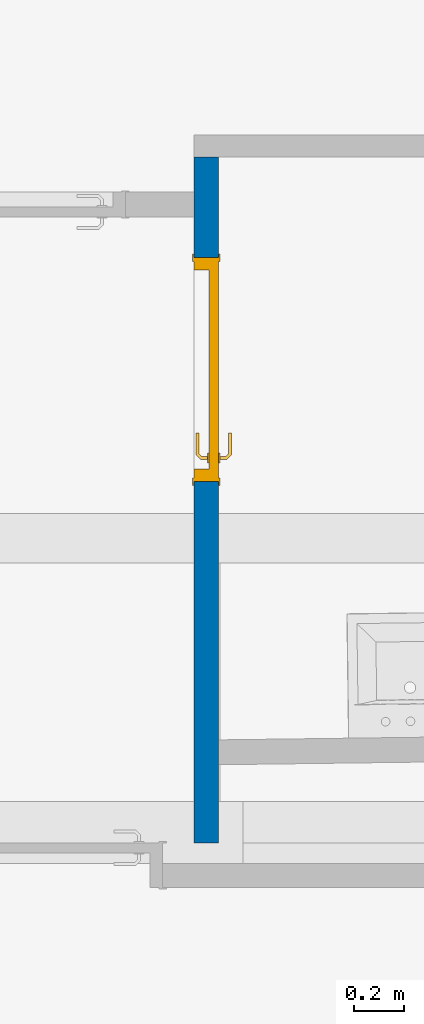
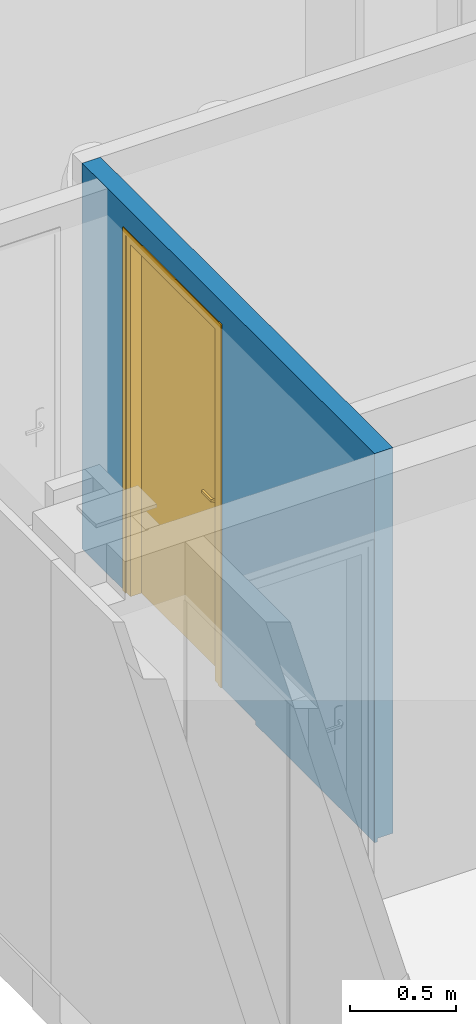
# One storey, part 11 of 32: 1 door, 1 wall, 1 opening.
"""IFC4 building model written with IfcOpenShell, lengths in metres."""

from ifc_helpers import new_model, entity, si_unit, converted_unit, derived_unit, direction, frame, origin, place, context, subcontext, project, spatial, indexed_curve, outline, extrude, polygons, source, transform, mapped, material, material_list, layer, layer_set, constituent, constituent_set, type_object, type_shapes, element, fill, save


model = new_model("IFC4")

# Units and contexts
model_context = context("Model", 3, precision=1e-05, world=origin(), true_north=direction((6.12303176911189e-17, 1.0)))
body_context = subcontext(model_context, "Body", "Model", "MODEL_VIEW")
ifc_project = project(units=[si_unit("LENGTHUNIT", "METRE"), si_unit("AREAUNIT", "SQUARE_METRE"), si_unit("VOLUMEUNIT", "CUBIC_METRE"), converted_unit("PLANEANGLEUNIT", "DEGREE", entity("IfcRatioMeasure", 0.0174532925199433), si_unit("PLANEANGLEUNIT", "RADIAN"), dimensions=[0, 0, 0, 0, 0, 0, 0]), si_unit("MASSUNIT", "GRAM", prefix="KILO"), derived_unit("MASSDENSITYUNIT", [(si_unit("MASSUNIT", "GRAM", prefix="KILO"), 1), (si_unit("LENGTHUNIT", "METRE"), -3)]), derived_unit("MOMENTOFINERTIAUNIT", [(si_unit("LENGTHUNIT", "METRE"), 4)]), si_unit("TIMEUNIT", "SECOND"), si_unit("FREQUENCYUNIT", "HERTZ"), si_unit("THERMODYNAMICTEMPERATUREUNIT", "DEGREE_CELSIUS"), derived_unit("THERMALTRANSMITTANCEUNIT", [(si_unit("MASSUNIT", "GRAM", prefix="KILO"), 1), (si_unit("THERMODYNAMICTEMPERATUREUNIT", "KELVIN"), -1), (si_unit("TIMEUNIT", "SECOND"), -3)]), derived_unit("VOLUMETRICFLOWRATEUNIT", [(si_unit("LENGTHUNIT", "METRE"), 3), (si_unit("TIMEUNIT", "SECOND"), -1)]), si_unit("ELECTRICCURRENTUNIT", "AMPERE"), si_unit("ELECTRICVOLTAGEUNIT", "VOLT"), si_unit("POWERUNIT", "WATT"), si_unit("FORCEUNIT", "NEWTON", prefix="KILO"), si_unit("ILLUMINANCEUNIT", "LUX"), si_unit("LUMINOUSFLUXUNIT", "LUMEN"), si_unit("LUMINOUSINTENSITYUNIT", "CANDELA"), derived_unit("USERDEFINED", [(si_unit("MASSUNIT", "GRAM", prefix="KILO"), -1), (si_unit("LENGTHUNIT", "METRE"), -2), (si_unit("TIMEUNIT", "SECOND"), 3), (si_unit("LUMINOUSFLUXUNIT", "LUMEN"), 1)]), derived_unit("LINEARVELOCITYUNIT", [(si_unit("LENGTHUNIT", "METRE"), 1), (si_unit("TIMEUNIT", "SECOND"), -1)]), si_unit("PRESSUREUNIT", "PASCAL"), derived_unit("USERDEFINED", [(si_unit("LENGTHUNIT", "METRE"), -2), (si_unit("MASSUNIT", "GRAM", prefix="KILO"), 1), (si_unit("TIMEUNIT", "SECOND"), -2)]), derived_unit("LINEARFORCEUNIT", [(si_unit("MASSUNIT", "GRAM", prefix="KILO"), 1), (si_unit("LENGTHUNIT", "METRE"), 1), (si_unit("TIMEUNIT", "SECOND"), -2), (si_unit("LENGTHUNIT", "METRE"), -1)]), derived_unit("PLANARFORCEUNIT", [(si_unit("MASSUNIT", "GRAM", prefix="KILO"), 1), (si_unit("LENGTHUNIT", "METRE"), 1), (si_unit("TIMEUNIT", "SECOND"), -2), (si_unit("LENGTHUNIT", "METRE"), -2)])], contexts=[model_context])

# Site, building, storey
site_placement = place(None, origin())
site = spatial("IfcSite", under=ifc_project, at=site_placement, Name="Default", CompositionType="ELEMENT")
building_placement = place(site_placement, origin())
building = spatial("IfcBuilding", under=site, at=building_placement, Name="HOTEL CONSULAIRE BOULOGNE SUR MER", CompositionType="ELEMENT")
storey_placement = place(building_placement, frame((0.0, 0.0, -2.70343668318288)))
storey = spatial("IfcBuildingStorey", under=building, at=storey_placement, Name="SS1", CompositionType="ELEMENT", Elevation=-2.70343668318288)

# Wall, opening, door
ifc_material_1 = material(Name="Mur par défaut", Category="Divers")
ifc_layer = layer(ifc_material_1, 0.1, Name="Mur par défaut", Category="Divers")
ifc_layer_set = layer_set([ifc_layer], Name="Mur de base:Générique - Int. 100 mm")
wall_type = type_object("IfcWallType", Name="Mur de base:Générique - Int. 100 mm", PredefinedType="NOTDEFINED", material=ifc_layer_set)
wall_placement = place(storey_placement, frame((-3.79169934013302, -19.9149143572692, 0.195), z_axis=(0.0, 0.0, 1.0), x_axis=(0.0, 1.0, 0.0)))
wall = element("IfcWall", 1, at=wall_placement, inside=storey, type_object=wall_type, material=ifc_layer_set, Name="Mur de base:Générique - Int. 100 mm", ObjectType="Mur de base:Générique - Int. 100 mm", PredefinedType="NOTDEFINED", context=body_context, shape_type="Tessellation", body=[
    polygons([(0.0, 0.0335278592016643, 0.0199999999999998), (1.12437589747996, 0.0335278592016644, 0.0199999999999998), (1.12437589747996, 0.0500000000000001, 0.0199999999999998), (1.4517756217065, 0.0500000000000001, 0.0199999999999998), (1.4517756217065, -0.05, 0.0199999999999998), (0.413938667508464, -0.0499999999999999, 0.0199999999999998), (0.313930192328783, -0.0499999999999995, 0.0199999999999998), (0.0, -0.05, 0.0199999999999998), (2.756, -0.0500000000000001, 2.23843668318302), (0.413938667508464, -0.0499999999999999, 2.23843668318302), (0.313930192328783, -0.0500000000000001, 2.23843668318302), (0.0, -0.05, 2.23843668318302), (1.4517756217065, -0.05, 2.095), (2.3517756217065, -0.0500000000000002, 2.095), (2.3517756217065, -0.0500000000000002, 0.0199999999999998), (2.756, -0.0500000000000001, 0.0199999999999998), (0.0, 0.05, 2.23843668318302), (2.5157756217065, 0.05, 2.23843668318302), (2.6157756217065, 0.0500000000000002, 2.23843668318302), (2.756, 0.0499999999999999, 2.23843668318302), (2.756, 0.0499999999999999, 0.0199999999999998), (2.3517756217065, 0.0499999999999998, 0.0199999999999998), (2.3517756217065, 0.0499999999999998, 2.095), (1.4517756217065, 0.0500000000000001, 2.095), (1.12437589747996, 0.0500000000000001, 0.0), (0.0, 0.05, 0.0), (1.12437589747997, 0.0335278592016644, 0.0), (0.0, 0.0335278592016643, 0.0)], [[[2, 3, 4, 5, 6, 7, 8, 1]], [[27, 28, 26, 25]], [[23, 14, 13, 24]], [[22, 21, 16, 15]], [[11, 12, 8, 7, 6, 5, 13, 14, 15, 16, 9, 10]], [[1, 28, 27, 2]], [[21, 22, 23, 24, 4, 3, 25, 26, 17, 18, 19, 20]], [[10, 9, 20, 19, 18, 17, 12, 11]], [[16, 21, 20, 9]], [[24, 13, 5, 4]], [[3, 2, 27, 25]], [[1, 8, 12, 17, 26, 28]], [[22, 15, 14, 23]]], closed=True),
])
opening_placement = place(wall_placement, frame((2.3517756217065, 0.0499999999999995, 0.0199999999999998)))
opening = element("IfcOpeningElement", 2, at=opening_placement, cuts=wall, Name="Int. Simple:PP (0.83m x 2.04m):1", ObjectType="Opening", PredefinedType="OPENING", context=body_context, shape_type="SweptSolid", body=[
    extrude(outline(indexed_curve([(0.0, 1.08286712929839e-15), (2.075, 1.08286712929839e-15), (2.075, 0.9), (0.0, 0.9), (0.0, 1.08286712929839e-15)], self_intersect=False)), frame((0.0, 0.0, 0.0), z_axis=(0.0, -1.0, 0.0), x_axis=(0.0, 0.0, 1.0)), (0.0, 0.0, 1.0), 0.1),
])
ifc_material_2 = material(Name="Finition Peinture - Blanc satiné", Category="Peinture")
ifc_constituent_1 = constituent(ifc_material_2, Name="Finition Peinture - Blanc satiné", Category="Matériaux")
ifc_material_3 = material(Name="Bois - Panneau de porte", Category="Bois")
ifc_constituent_2 = constituent(ifc_material_3, Name="Bois - Panneau de porte", Category="Matériaux")
ifc_material_4 = material(Name="Bois - Cadre de porte", Category="Bois")
ifc_constituent_3 = constituent(ifc_material_4, Name="Bois - Cadre de porte", Category="Matériaux")
ifc_constituent_set = constituent_set(constituents=[ifc_constituent_1, ifc_constituent_2, ifc_constituent_3], Name="MaterialConstituentSet")
ifc_material_list = material_list([ifc_material_3, ifc_material_4, ifc_material_2, ifc_material_4])
door_type = type_object("IfcDoorType", Name="Int. Simple:PP (0.83m x 2.04m)", OperationType="NOTDEFINED", PredefinedType="DOOR", material=ifc_material_list)
shared_shape = source(origin(), body_context, "Body", "Tessellation", [
    polygons([(0.0750000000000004, -0.00500000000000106, 0.870000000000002), (0.0846472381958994, -0.00500000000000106, 0.866003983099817), (0.0950000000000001, -0.00500000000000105, 0.86464101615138), (0.105352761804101, -0.00500000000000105, 0.866003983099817), (0.115, -0.00500000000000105, 0.870000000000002), (0.114999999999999, -0.00500000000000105, 1.08), (0.1053527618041, -0.00500000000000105, 1.08399601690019), (0.094999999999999, -0.00500000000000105, 1.08535898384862), (0.0846472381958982, -0.00500000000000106, 1.08399601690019), (0.0749999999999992, -0.00500000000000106, 1.08), (0.0749999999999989, -1.06594733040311e-15, 0.870000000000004), (0.0749999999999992, -1.06594733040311e-15, 1.08), (0.0846472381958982, -1.06594733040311e-15, 1.08399601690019), (0.094999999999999, -1.05748743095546e-15, 1.08535898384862), (0.1053527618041, -1.05748743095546e-15, 1.08399601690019), (0.114999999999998, -1.04902753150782e-15, 1.08), (0.115, -1.04902753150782e-15, 0.870000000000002), (0.105352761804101, -1.05748743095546e-15, 0.866003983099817), (0.0950000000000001, -1.05748743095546e-15, 0.86464101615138), (0.0846472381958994, -1.06594733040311e-15, 0.866003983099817)], [[[4, 5, 6, 7, 8, 9, 10, 1, 2, 3]], [[15, 16, 17, 18, 19, 20, 11, 12, 13, 14]], [[11, 20, 2, 1]], [[2, 20, 19, 3]], [[19, 18, 4, 3]], [[18, 17, 5, 4]], [[6, 5, 17, 16]], [[16, 15, 7, 6]], [[7, 15, 14, 8]], [[14, 13, 9, 8]], [[13, 12, 10, 9]], [[1, 10, 12, 11]]], closed=True),
    polygons([(0.114999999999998, 0.0399999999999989, 1.08), (0.105352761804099, 0.0399999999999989, 1.08399601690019), (0.0949999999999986, 0.0399999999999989, 1.08535898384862), (0.084647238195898, 0.0399999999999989, 1.08399601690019), (0.0749999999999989, 0.0399999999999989, 1.08), (0.0750000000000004, 0.0399999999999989, 0.870000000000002), (0.0846472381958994, 0.0399999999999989, 0.866003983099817), (0.0950000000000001, 0.0399999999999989, 0.86464101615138), (0.105352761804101, 0.0399999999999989, 0.866003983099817), (0.115, 0.0399999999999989, 0.870000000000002), (0.114999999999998, 0.0449999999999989, 1.08), (0.115, 0.0449999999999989, 0.870000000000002), (0.105352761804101, 0.0449999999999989, 0.866003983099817), (0.0950000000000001, 0.0449999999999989, 0.86464101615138), (0.0846472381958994, 0.0449999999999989, 0.866003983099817), (0.0749999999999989, 0.0449999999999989, 0.870000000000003), (0.0749999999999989, 0.0449999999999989, 1.08), (0.084647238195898, 0.0449999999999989, 1.08399601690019), (0.0949999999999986, 0.0449999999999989, 1.08535898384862), (0.105352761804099, 0.0449999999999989, 1.08399601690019)], [[[9, 10, 1, 2, 3, 4, 5, 6, 7, 8]], [[20, 11, 12, 13, 14, 15, 16, 17, 18, 19]], [[11, 20, 2, 1]], [[2, 20, 19, 3]], [[19, 18, 4, 3]], [[18, 17, 5, 4]], [[6, 5, 17, 16]], [[16, 15, 7, 6]], [[7, 15, 14, 8]], [[14, 13, 9, 8]], [[13, 12, 10, 9]], [[1, 10, 12, 11]]], closed=True),
    polygons([(0.0889999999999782, -0.00500000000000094, 1.007), (0.0929747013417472, -0.00500000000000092, 1.00778044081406), (0.0970252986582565, -0.0050000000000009, 1.00778044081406), (0.101000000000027, -0.00500000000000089, 1.00699999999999), (0.101000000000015, -0.00500000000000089, 0.993000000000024), (0.0970252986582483, -0.0050000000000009, 0.992219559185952), (0.0929747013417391, -0.00500000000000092, 0.99221955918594), (0.0889999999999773, -0.00500000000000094, 0.992999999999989), (0.0889999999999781, -0.0326509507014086, 1.007), (0.092974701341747, -0.0310045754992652, 1.00778044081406), (0.0970252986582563, -0.0293267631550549, 1.00778044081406), (0.101000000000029, -0.0276803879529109, 1.007), (0.101000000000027, -0.0276803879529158, 0.993000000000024), (0.0970252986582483, -0.0293267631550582, 0.992219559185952), (0.0929747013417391, -0.0310045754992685, 0.99221955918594), (0.0889999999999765, -0.0326509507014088, 0.992999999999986), (0.107377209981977, -0.0510281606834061, 1.007), (0.10902358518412, -0.0470534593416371, 1.00778044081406), (0.110701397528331, -0.0430028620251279, 1.00778044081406), (0.112347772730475, -0.0390281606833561, 1.007), (0.112347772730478, -0.0390281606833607, 0.993000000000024), (0.110701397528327, -0.0430028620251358, 0.992219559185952), (0.109023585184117, -0.0470534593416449, 0.99221955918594), (0.107377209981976, -0.0510281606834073, 0.992999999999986), (0.195018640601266, -0.0510281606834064, 1.00699999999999), (0.195018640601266, -0.051028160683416, 0.992999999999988), (0.195018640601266, -0.0470534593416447, 0.99221955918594), (0.195018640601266, -0.0430028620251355, 0.992219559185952), (0.195018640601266, -0.0390281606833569, 0.993000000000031), (0.195018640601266, -0.0390281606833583, 1.007), (0.195018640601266, -0.0430028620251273, 1.00778044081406), (0.195018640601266, -0.0470534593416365, 1.00778044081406), (0.147307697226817, -0.0510281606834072, 1.007), (0.152860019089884, -0.045028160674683, 1.0078786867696), (0.15368320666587, -0.039028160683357, 1.007), (0.147307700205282, -0.0510281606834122, 0.992999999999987), (0.152860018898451, -0.0450281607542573, 0.992121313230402), (0.153683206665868, -0.0390281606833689, 0.993000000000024)], [[[2, 3, 4, 5, 6, 7, 8, 1]], [[21, 20, 35, 30, 29, 38]], [[9, 10, 2, 1]], [[10, 18, 19, 11, 3, 2]], [[11, 12, 4, 3]], [[5, 4, 12, 13]], [[26, 27, 28, 29, 30, 31, 32, 25]], [[13, 14, 6, 5]], [[14, 22, 23, 15, 7, 6]], [[15, 16, 8, 7]], [[1, 8, 16, 9]], [[17, 18, 10, 9]], [[19, 20, 12, 11]], [[13, 12, 20, 21]], [[21, 22, 14, 13]], [[23, 24, 16, 15]], [[9, 16, 24, 17]], [[33, 32, 34]], [[25, 32, 33]], [[18, 17, 33]], [[34, 35, 19]], [[20, 19, 35]], [[35, 31, 30]], [[32, 31, 34]], [[31, 35, 34]], [[18, 33, 34]], [[18, 34, 19]], [[38, 28, 37]], [[36, 37, 27]], [[21, 38, 22]], [[38, 29, 28]], [[26, 36, 27]], [[24, 23, 36]], [[36, 23, 37]], [[23, 22, 37]], [[22, 38, 37]], [[27, 37, 28]], [[17, 24, 36, 26, 25, 33]]], closed=True),
    polygons([(0.10100000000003, 0.0449999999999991, 0.993000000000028), (0.101000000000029, 0.0449999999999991, 1.007), (0.0970252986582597, 0.0449999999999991, 1.00778044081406), (0.0929747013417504, 0.0449999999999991, 1.00778044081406), (0.0889999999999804, 0.044999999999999, 1.007), (0.0889999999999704, 0.044999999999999, 0.992999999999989), (0.0929747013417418, 0.0449999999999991, 0.99221955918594), (0.0970252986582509, 0.0449999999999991, 0.992219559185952), (0.10100000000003, 0.067485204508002, 0.993000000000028), (0.10100000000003, 0.0674852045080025, 1.007), (0.0970252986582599, 0.0691315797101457, 1.00778044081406), (0.0929747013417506, 0.070809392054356, 1.00778044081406), (0.0889999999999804, 0.0724557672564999, 1.007), (0.0889999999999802, 0.072455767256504, 0.992999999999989), (0.0929747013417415, 0.0708093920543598, 0.99221955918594), (0.0970252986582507, 0.0691315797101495, 0.992219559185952), (0.112485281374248, 0.0789704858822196, 0.993000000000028), (0.112485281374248, 0.0789704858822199, 1.007), (0.110838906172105, 0.0829451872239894, 1.00778044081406), (0.109161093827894, 0.0869957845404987, 1.00778044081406), (0.107514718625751, 0.0909704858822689, 1.007), (0.107514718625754, 0.090970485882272, 0.992999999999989), (0.109161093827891, 0.0869957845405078, 0.99221955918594), (0.110838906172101, 0.0829451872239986, 0.992219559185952), (0.195045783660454, 0.0789704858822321, 0.993000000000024), (0.195045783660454, 0.0829451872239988, 0.992219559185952), (0.195045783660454, 0.086995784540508, 0.99221955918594), (0.195045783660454, 0.0909704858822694, 0.992999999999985), (0.195045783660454, 0.0909704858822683, 1.007), (0.195045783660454, 0.0869957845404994, 1.00778044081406), (0.195045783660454, 0.0829451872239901, 1.00778044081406), (0.195045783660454, 0.0789704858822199, 1.007), (0.147445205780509, 0.0909704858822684, 1.007), (0.152942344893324, 0.0849704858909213, 1.0078786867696), (0.153765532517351, 0.0789704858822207, 1.007), (0.147445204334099, 0.0909704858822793, 0.992999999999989), (0.152942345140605, 0.0849704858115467, 0.992121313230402), (0.153765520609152, 0.0789704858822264, 0.993000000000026)], [[[4, 5, 6, 7, 8, 1, 2, 3]], [[18, 17, 38, 25, 32, 35]], [[2, 1, 9, 10]], [[25, 26, 27, 28, 29, 30, 31, 32]], [[10, 11, 3, 2]], [[11, 19, 20, 12, 4, 3]], [[12, 13, 5, 4]], [[6, 5, 13, 14]], [[14, 15, 7, 6]], [[15, 23, 24, 16, 8, 7]], [[16, 9, 1, 8]], [[10, 9, 17, 18]], [[18, 19, 11, 10]], [[20, 21, 13, 12]], [[14, 13, 21, 22]], [[22, 23, 15, 14]], [[24, 17, 9, 16]], [[35, 31, 34]], [[33, 34, 30]], [[18, 35, 19]], [[35, 32, 31]], [[29, 33, 30]], [[21, 20, 33]], [[33, 20, 34]], [[20, 19, 34]], [[19, 35, 34]], [[30, 34, 31]], [[21, 33, 29, 28, 36, 22]], [[36, 27, 37]], [[28, 27, 36]], [[23, 22, 36]], [[37, 38, 24]], [[17, 24, 38]], [[38, 26, 25]], [[27, 26, 37]], [[26, 38, 37]], [[23, 36, 37]], [[23, 37, 24]]], closed=True),
    polygons([(0.034999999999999, 0.04, 2.04), (0.865, 0.04, 2.04), (0.864999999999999, 0.04, 0.0), (0.034999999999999, 0.04, 0.0), (0.034999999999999, 3.38395977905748e-17, 2.04), (0.034999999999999, 3.38395977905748e-17, 0.0), (0.864999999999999, 3.38395977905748e-17, 0.0), (0.865, 3.38395977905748e-17, 2.04)], [[[4, 1, 2, 3]], [[7, 8, 5, 6]], [[2, 1, 5, 8]], [[3, 2, 8, 7]], [[4, 3, 7, 6]], [[1, 4, 6, 5]]], closed=True),
    polygons([(-1.54308565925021e-14, 0.0, 0.0), (-1.54308565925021e-14, 0.100000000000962, 0.0), (0.0499999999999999, 0.100000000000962, 0.0), (0.0499999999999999, 0.040000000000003, 0.0), (0.0349999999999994, 0.040000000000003, 0.0), (0.0349999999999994, 0.0, 0.0), (-1.53631773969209e-14, 0.0, 2.07500000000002), (-1.53631773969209e-14, 0.100000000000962, 2.07500000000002), (0.900000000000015, 0.100000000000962, 2.07500000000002), (0.900000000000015, 0.100000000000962, 9.23443718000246e-25), (0.85, 0.100000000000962, 6.02669015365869e-24), (0.85, 0.100000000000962, 2.025), (0.05, 0.100000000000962, 2.025), (0.05, 0.040000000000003, 2.025), (0.85, 0.040000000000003, 2.025), (0.85, 0.040000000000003, 1.99209609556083e-25), (0.865, 0.040000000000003, 1.51399294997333e-24), (0.865000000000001, 0.040000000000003, 2.04), (0.0349999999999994, 0.040000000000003, 2.04), (0.0349999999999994, 0.0, 2.04), (0.865, 0.0, 2.04), (0.865, 0.0, 3.40121094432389e-24), (0.900000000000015, 0.0, 1.81925185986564e-24), (0.900000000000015, 0.0, 2.07500000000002)], [[[5, 6, 1, 2, 3, 4]], [[11, 10, 23, 22, 17, 16]], [[14, 13, 12, 15]], [[20, 19, 18, 21]], [[2, 1, 7, 8]], [[15, 12, 11, 16]], [[21, 18, 17, 22]], [[3, 2, 8, 9, 10, 11, 12, 13]], [[4, 3, 13, 14]], [[6, 5, 19, 20]], [[9, 24, 23, 10]], [[16, 17, 18, 19, 5, 4, 14, 15]], [[22, 23, 24, 7, 1, 6, 20, 21]], [[8, 7, 24, 9]]], closed=True),
    polygons([(0.0149999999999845, 0.100000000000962, 1.35358391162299e-16), (-0.0150000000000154, 0.100000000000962, 1.35358391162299e-16), (-0.0150000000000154, 0.105000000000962, 1.35358391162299e-16), (0.0149999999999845, 0.105000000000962, 1.35358391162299e-16), (0.0149999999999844, 0.100000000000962, 2.06000000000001), (0.884999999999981, 0.100000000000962, 2.06000000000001), (0.88499999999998, 0.100000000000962, 5.09144897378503e-24), (0.91499999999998, 0.100000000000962, -5.44393448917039e-24), (0.91499999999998, 0.100000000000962, 2.09000000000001), (-0.0150000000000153, 0.100000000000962, 2.09000000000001), (-0.0150000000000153, 0.105000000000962, 2.09000000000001), (0.91499999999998, 0.105000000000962, 2.09000000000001), (0.91499999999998, 0.105000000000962, 5.03766794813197e-24), (0.88499999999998, 0.105000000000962, -1.89153776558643e-24), (0.88499999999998, 0.105000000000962, 2.06000000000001), (0.0149999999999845, 0.105000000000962, 2.06000000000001)], [[[1, 2, 3, 4]], [[14, 13, 8, 7]], [[5, 16, 15, 6]], [[7, 8, 9, 10, 2, 1, 5, 6]], [[3, 2, 10, 11]], [[6, 15, 14, 7]], [[4, 3, 11, 12, 13, 14, 15, 16]], [[1, 4, 16, 5]], [[12, 9, 8, 13]], [[11, 10, 9, 12]]], closed=True),
    polygons([(0.0149999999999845, -0.005, 1.35358391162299e-16), (-0.0150000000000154, -0.005, 1.35358391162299e-16), (-0.0150000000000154, 0.0, 1.35358391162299e-16), (0.0149999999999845, 0.0, 1.35358391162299e-16), (0.88499999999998, -0.005, -1.35358391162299e-16), (0.88499999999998, 0.0, -1.35358391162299e-16), (0.91499999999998, 0.0, -1.35358391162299e-16), (0.91499999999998, -0.005, -1.35358391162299e-16), (0.0149999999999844, -0.005, 2.06000000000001), (0.884999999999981, -0.005, 2.06000000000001), (0.91499999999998, -0.005, 2.09000000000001), (-0.0150000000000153, -0.005, 2.09000000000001), (-0.0150000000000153, 0.0, 2.09000000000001), (0.91499999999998, 0.0, 2.09000000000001), (0.88499999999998, 0.0, 2.06000000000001), (0.0149999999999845, 0.0, 2.06000000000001)], [[[2, 3, 4, 1]], [[6, 7, 8, 5]], [[9, 16, 15, 10]], [[5, 8, 11, 12, 2, 1, 9, 10]], [[3, 2, 12, 13]], [[10, 15, 6, 5]], [[4, 3, 13, 14, 7, 6, 15, 16]], [[1, 4, 16, 9]], [[14, 11, 8, 7]], [[13, 12, 11, 14]]], closed=True),
])
type_shapes(door_type, [shared_shape])
door_placement = place(opening_placement, frame((-0.899999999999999, -0.100000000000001, 0.0)))
door = element("IfcDoor", 3, at=door_placement, inside=storey, type_object=door_type, material=ifc_constituent_set, Name="Int. Simple:PP (0.83m x 2.04m)", ObjectType="Int. Simple:PP (0.83m x 2.04m)", OperationType="NOTDEFINED", OverallHeight=2.075, OverallWidth=0.899999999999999, PredefinedType="DOOR", context=body_context, shape_type="MappedRepresentation", body=[
    mapped(shared_shape, transform((0.0, 0.0, 0.0), scale=1.0)),
])
fill(opening, door)

save(model, "model.ifc")
